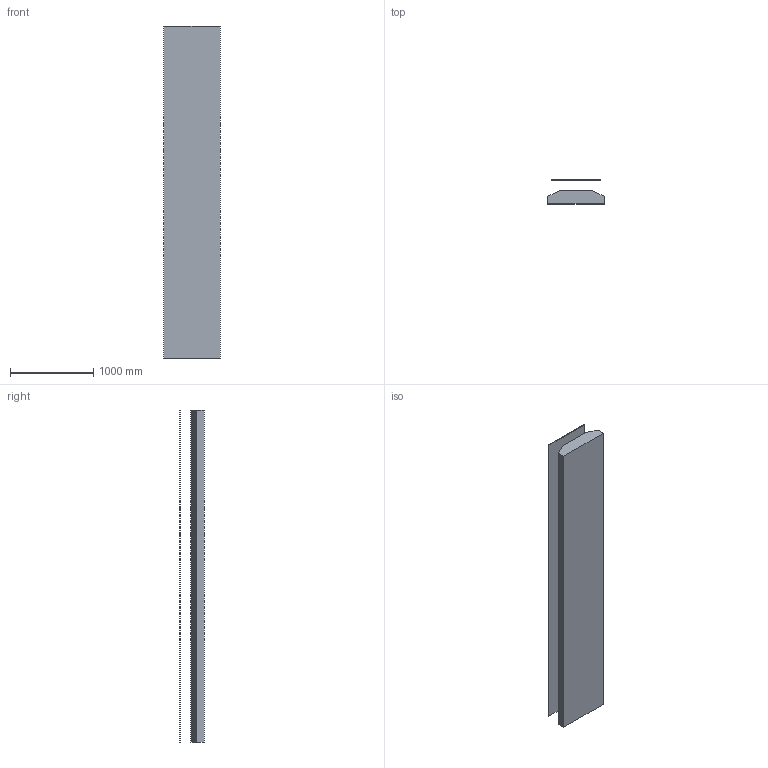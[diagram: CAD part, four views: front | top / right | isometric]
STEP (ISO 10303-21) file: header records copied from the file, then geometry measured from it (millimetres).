
FILE_DESCRIPTION (( 'STEP AP203' ), '1' );
FILE_NAME ('30773.step', '2019-03-14T14:33:09', ( 'PC' ), ( 'Hewlett-Packard Company' ), 'SwSTEP 2.0', 'SolidWorks 2016', '' );
FILE_SCHEMA (( 'CONFIG_CONTROL_DESIGN' ));
Length unit declared in the file: millimetre
Products named in the file (1): 30773
Bounding box: 680 x 293.5 x 4000 mm (x, y, z)
Volume: 410400000 mm3; surface area: 11345398.1 mm2
Topology: 2 solids, 2 shells, 14 faces, 30 edges, 20 vertices
Faces by surface type: plane 14
Entity records: 449 total; most frequent: CARTESIAN_POINT 65, DIRECTION 60, ORIENTED_EDGE 60, VECTOR 30, LINE 30, EDGE_CURVE 30, VERTEX_POINT 20, AXIS2_PLACEMENT_3D 15
